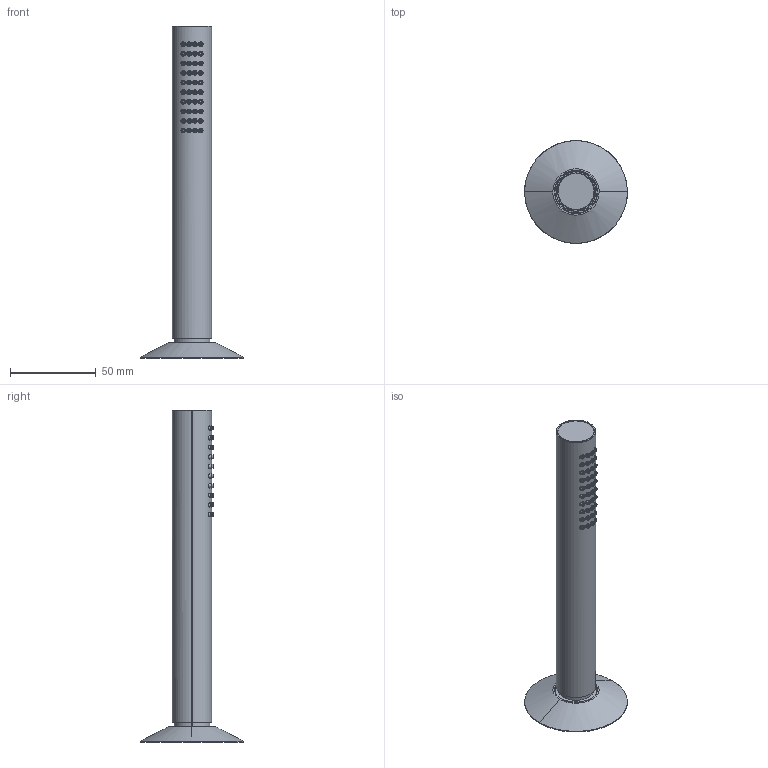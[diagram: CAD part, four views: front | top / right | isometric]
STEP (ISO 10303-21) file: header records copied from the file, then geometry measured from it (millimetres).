
FILE_DESCRIPTION(('STEP AP214'),'2;1');
FILE_NAME('DIS_3D_Z650.stp','2025-09-18T10:35:39',(''),(''),'2015.2.119','THINKDESIGN','');
FILE_SCHEMA(('AUTOMOTIVE_DESIGN'));
Length unit declared in the file: millimetre
Products named in the file (1): top
Bounding box: 60 x 60 x 193.7 mm (x, y, z)
Surface area: 40323.5 mm2 (no closed solid volume)
Topology: 0 solids, 0 shells, 795 faces, 3498 edges, 3496 vertices
Faces by surface type: bspline 497, cylinder 232, plane 66
Full cylindrical faces by diameter (mm): 21.147 x1, 24.544 x1
Entity records: 67481 total; most frequent: CARTESIAN_POINT 54333, COMPOSITE_CURVE_SEGMENT 3498, B_SPLINE_CURVE_WITH_KNOTS 2113, DIRECTION 1506, TRIMMED_CURVE 833, OUTER_BOUNDARY_CURVE 795, CURVE_BOUNDED_SURFACE 795, STYLED_ITEM 795
